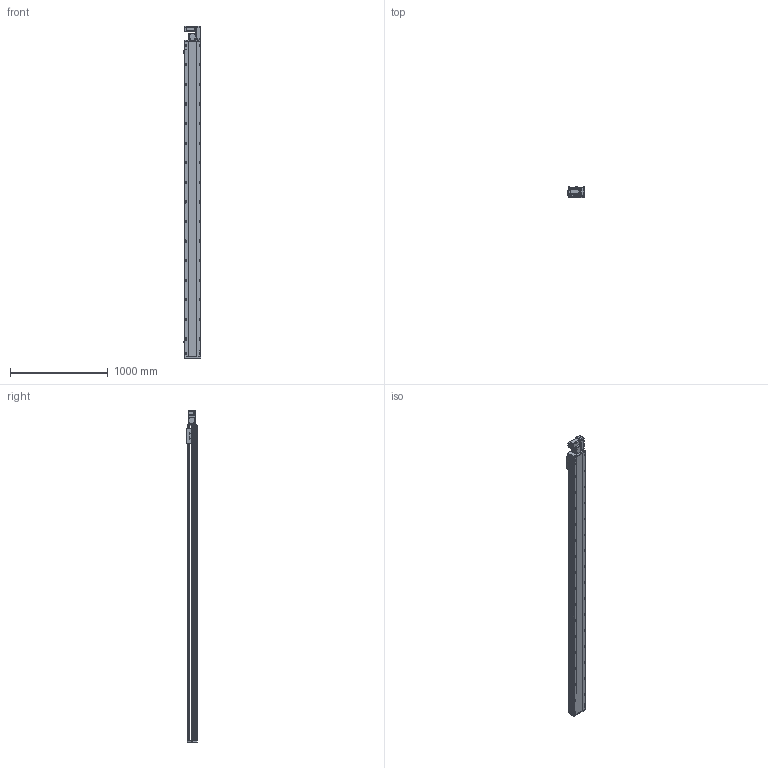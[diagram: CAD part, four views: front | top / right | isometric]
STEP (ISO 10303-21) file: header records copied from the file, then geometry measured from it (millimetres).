
FILE_DESCRIPTION (( 'STEP AP214' ), '1' );
FILE_NAME ('RTB17S-XX-2950-R-M40-C4.STEP', '2025-12-11T07:56:23', ( '' ), ( '' ), 'SwSTEP 2.0', 'SolidWorks 2018', '' );
FILE_SCHEMA (( 'AUTOMOTIVE_DESIGN' ));
Length unit declared in the file: millimetre
Products named in the file (14): RTB14-L-005P--轴承塑胶压盖^RTB17S-R-皮带座装配-400W_RTB17S-XX-XX-R-M40-C4; RTB17S-R-々湍釱蚾饜-400W^RTB17S-XX-XX-R-M40-C4; RTB14-L-018P^RTB17S-R-々湍釱蚾饜-400W_RTB17S-XX-XX-R-M40-C4; RTB14-L-008-M20--萇儂啣^RTB17S-R-々湍釱蚾饜-400W_RTB17S-XX-XX-R-M40-C4; RTB17S-L-001耜醱啣^RTB17S-XX-XX-R-M40-C4; OMRON EE-SX672 传感器^RTB17S-XX-XX-R-M40-C4; RTH13-BL-012覜茼え俋离^RTB17S-XX-XX-R-M40-C4; RTB17S-L-004佪裝蹟譫蟀諉釱^RTB17S-XX-XX-R-M40-C4; RTB14-L-017P^RTB17S-R-々湍釱蚾饜-400W_RTB17S-XX-XX-R-M40-C4; 400W侜督萇儂^RTB17S-XX-XX-R-M40-C4; RTB17S-L-014-T20--々湍釱^RTB17S-R-々湍釱蚾饜-400W_RTB17S-XX-XX-R-M40-C4; RTB17S-L-007奻裔^RTB17S-XX-XX-R-M40-C4; RTB17-R-011菁釱^RTB17S-XX-XX-R-M40-C4; RTB17S-XX-2950-R-M40-C4
Assembly tree (16 placements, depth 3):
  RTB17S-XX-2950-R-M40-C4
    RTB17-R-011菁釱^RTB17S-XX-XX-R-M40-C4
    RTB17S-L-007奻裔^RTB17S-XX-XX-R-M40-C4
    OMRON EE-SX672 传感器^RTB17S-XX-XX-R-M40-C4  x3
    RTB17S-L-001耜醱啣^RTB17S-XX-XX-R-M40-C4
    400W侜督萇儂^RTB17S-XX-XX-R-M40-C4
    RTB17S-L-004佪裝蹟譫蟀諉釱^RTB17S-XX-XX-R-M40-C4
    RTH13-BL-012覜茼え俋离^RTB17S-XX-XX-R-M40-C4
    RTB17S-R-々湍釱蚾饜-400W^RTB17S-XX-XX-R-M40-C4
      RTB17S-L-014-T20--々湍釱^RTB17S-R-々湍釱蚾饜-400W_RTB17S-XX-XX-R-M40-C4
      RTB14-L-005P--轴承塑胶压盖^RTB17S-R-皮带座装配-400W_RTB17S-XX-XX-R-M40-C4
      RTB14-L-008-M20--萇儂啣^RTB17S-R-々湍釱蚾饜-400W_RTB17S-XX-XX-R-M40-C4
      RTB14-L-017P^RTB17S-R-々湍釱蚾饜-400W_RTB17S-XX-XX-R-M40-C4  x2
      RTB14-L-018P^RTB17S-R-々湍釱蚾饜-400W_RTB17S-XX-XX-R-M40-C4
Bounding box: 183.5 x 108 x 3391 mm (x, y, z)
Volume: 28276429.7 mm3; surface area: 3232183 mm2
Topology: 15 solids, 15 shells, 2365 faces, 6627 edges, 4329 vertices
Faces by surface type: plane 1088, cylinder 829, bspline 301, cone 139, torus 8
Entity records: 70313 total; most frequent: CARTESIAN_POINT 20032, ORIENTED_EDGE 10098, DIRECTION 9296, EDGE_CURVE 5049, VERTEX_POINT 3317, AXIS2_PLACEMENT_3D 3247, LINE 2802, VECTOR 2802
